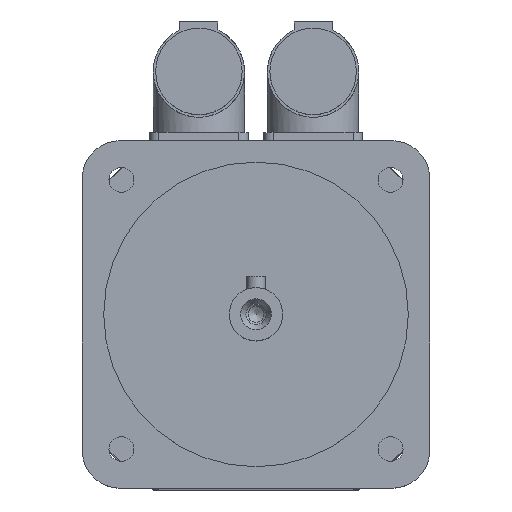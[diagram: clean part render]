
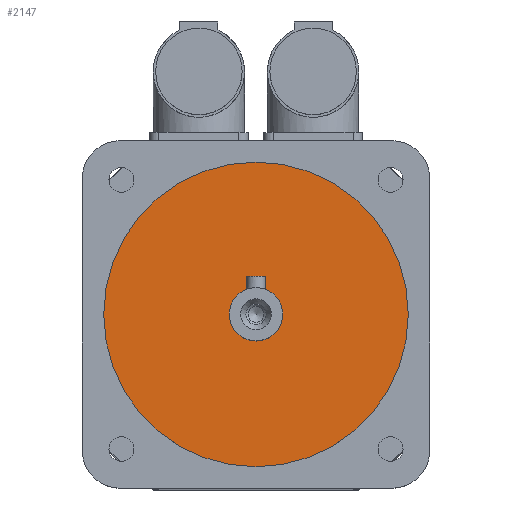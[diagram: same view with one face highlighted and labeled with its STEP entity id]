
A CAD part, top view. The second image highlights one B-rep face of the part: STEP entity #2147.
In plain terms, the highlighted planar face has unit normal (0, 0, 1).
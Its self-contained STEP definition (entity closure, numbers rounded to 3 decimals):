
#364=PLANE('',#2300);
#497=FACE_BOUND('',#679,.T.);
#533=FACE_OUTER_BOUND('',#678,.T.);
#678=EDGE_LOOP('',(#1534));
#679=EDGE_LOOP('',(#1535));
#830=CIRCLE('',#2299,7.);
#831=CIRCLE('',#2301,40.);
#978=VERTEX_POINT('',#3374);
#979=VERTEX_POINT('',#3377);
#1194=EDGE_CURVE('',#978,#978,#830,.T.);
#1195=EDGE_CURVE('',#979,#979,#831,.T.);
#1534=ORIENTED_EDGE('',*,*,#1195,.F.);
#1535=ORIENTED_EDGE('',*,*,#1194,.T.);
#2147=ADVANCED_FACE('',(#533,#497),#364,.T.);
#2299=AXIS2_PLACEMENT_3D('',#3375,#2624,#2625);
#2300=AXIS2_PLACEMENT_3D('',#3376,#2626,#2627);
#2301=AXIS2_PLACEMENT_3D('',#3378,#2628,#2629);
#2624=DIRECTION('center_axis',(0.,0.,-1.));
#2625=DIRECTION('ref_axis',(1.,0.,0.));
#2626=DIRECTION('center_axis',(0.,0.,1.));
#2627=DIRECTION('ref_axis',(1.,0.,0.));
#2628=DIRECTION('center_axis',(0.,0.,-1.));
#2629=DIRECTION('ref_axis',(1.,0.,0.));
#3374=CARTESIAN_POINT('',(0.,7.,226.));
#3375=CARTESIAN_POINT('Origin',(0.,0.,226.));
#3376=CARTESIAN_POINT('Origin',(0.,40.,226.));
#3377=CARTESIAN_POINT('',(0.,40.,226.));
#3378=CARTESIAN_POINT('Origin',(0.,0.,226.));
